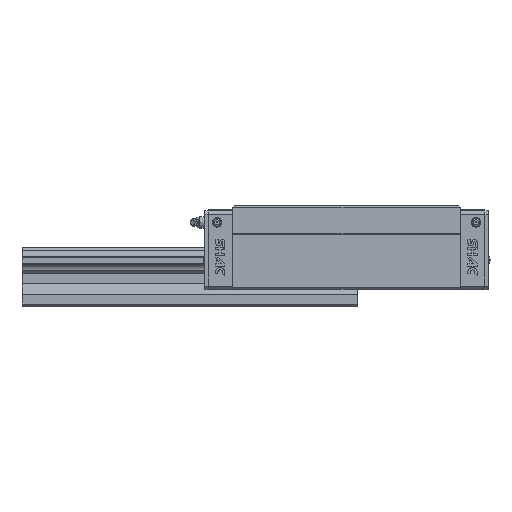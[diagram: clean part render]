
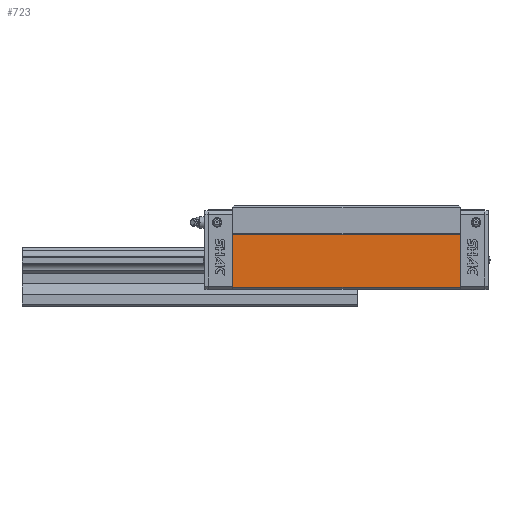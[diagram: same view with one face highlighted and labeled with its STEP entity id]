
A CAD part, top view. The second image highlights one B-rep face of the part: STEP entity #723.
In plain terms, the highlighted planar face has unit normal (0, 0, 1).
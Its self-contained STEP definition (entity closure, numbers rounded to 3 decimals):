
#723 = ADVANCED_FACE( '', ( #1794 ), #1795, .F. );
#1794 = FACE_OUTER_BOUND( '', #3357, .T. );
#1795 = PLANE( '', #3358 );
#3357 = EDGE_LOOP( '', ( #5010, #5011, #5012, #5013 ) );
#3358 = AXIS2_PLACEMENT_3D( '', #5014, #5015, #5016 );
#5010 = ORIENTED_EDGE( '', *, *, #9427, .T. );
#5011 = ORIENTED_EDGE( '', *, *, #9428, .F. );
#5012 = ORIENTED_EDGE( '', *, *, #9429, .F. );
#5013 = ORIENTED_EDGE( '', *, *, #9430, .T. );
#5014 = CARTESIAN_POINT( '', ( 101.8, 64., 62. ) );
#5015 = DIRECTION( '', ( 0., 0., -1. ) );
#5016 = DIRECTION( '', ( -1., 0., 0. ) );
#9427 = EDGE_CURVE( '', #11226, #11227, #11228, .T. );
#9428 = EDGE_CURVE( '', #11229, #11227, #11230, .T. );
#9429 = EDGE_CURVE( '', #11231, #11229, #11232, .T. );
#9430 = EDGE_CURVE( '', #11231, #11226, #11233, .T. );
#11226 = VERTEX_POINT( '', #13857 );
#11227 = VERTEX_POINT( '', #13858 );
#11228 = LINE( '', #13859, #13860 );
#11229 = VERTEX_POINT( '', #13861 );
#11230 = LINE( '', #13862, #13863 );
#11231 = VERTEX_POINT( '', #13864 );
#11232 = LINE( '', #13865, #13866 );
#11233 = LINE( '', #13867, #13868 );
#13857 = CARTESIAN_POINT( '', ( -101.8, 64., 62. ) );
#13858 = CARTESIAN_POINT( '', ( -101.8, 17., 62. ) );
#13859 = CARTESIAN_POINT( '', ( -101.8, 64., 62. ) );
#13860 = VECTOR( '', #17537, 1000. );
#13861 = CARTESIAN_POINT( '', ( 101.8, 17., 62. ) );
#13862 = CARTESIAN_POINT( '', ( 101.8, 17., 62. ) );
#13863 = VECTOR( '', #17538, 1000. );
#13864 = CARTESIAN_POINT( '', ( 101.8, 64., 62. ) );
#13865 = CARTESIAN_POINT( '', ( 101.8, 64., 62. ) );
#13866 = VECTOR( '', #17539, 1000. );
#13867 = CARTESIAN_POINT( '', ( 101.8, 64., 62. ) );
#13868 = VECTOR( '', #17540, 1000. );
#17537 = DIRECTION( '', ( 0., -1., 0. ) );
#17538 = DIRECTION( '', ( -1., 0., 0. ) );
#17539 = DIRECTION( '', ( 0., -1., 0. ) );
#17540 = DIRECTION( '', ( -1., 0., 0. ) );
